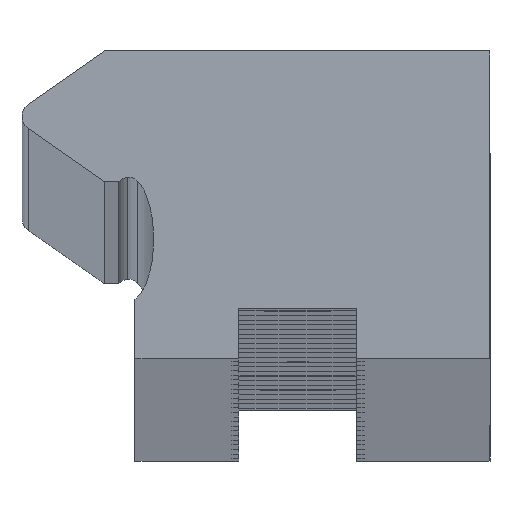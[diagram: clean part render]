
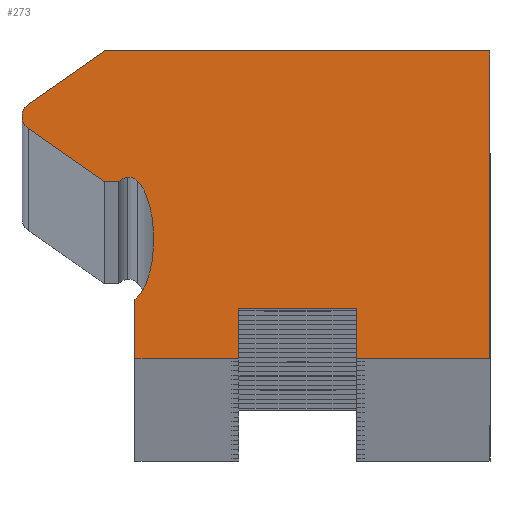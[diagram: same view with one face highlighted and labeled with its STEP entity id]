
A CAD part, top view. The second image highlights one B-rep face of the part: STEP entity #273.
In plain terms, the highlighted planar face has unit normal (0, 0, 1).
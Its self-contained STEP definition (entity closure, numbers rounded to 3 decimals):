
#273=ADVANCED_FACE('',(#715),#716,.F.);
#715=FACE_OUTER_BOUND('',#1157,.T.);
#716=PLANE('',#1158);
#1157=EDGE_LOOP('',(#2914,#2915,#2916,#2917,#2918,#2919,#2920,#2921,#2922,#2923,#2924,#2925,#2926,#2927,#2928,#2929,#2930,#2931,#2932,#2933,#2934));
#1158=AXIS2_PLACEMENT_3D('',#2935,#2936,#2937);
#2914=ORIENTED_EDGE('',*,*,#3528,.F.);
#2915=ORIENTED_EDGE('',*,*,#3481,.F.);
#2916=ORIENTED_EDGE('',*,*,#3263,.F.);
#2917=ORIENTED_EDGE('',*,*,#3485,.F.);
#2918=ORIENTED_EDGE('',*,*,#3488,.F.);
#2919=ORIENTED_EDGE('',*,*,#3490,.F.);
#2920=ORIENTED_EDGE('',*,*,#2943,.F.);
#2921=ORIENTED_EDGE('',*,*,#3493,.F.);
#2922=ORIENTED_EDGE('',*,*,#3496,.F.);
#2923=ORIENTED_EDGE('',*,*,#3499,.F.);
#2924=ORIENTED_EDGE('',*,*,#3502,.T.);
#2925=ORIENTED_EDGE('',*,*,#3505,.T.);
#2926=ORIENTED_EDGE('',*,*,#3508,.T.);
#2927=ORIENTED_EDGE('',*,*,#3511,.T.);
#2928=ORIENTED_EDGE('',*,*,#3512,.T.);
#2929=ORIENTED_EDGE('',*,*,#2941,.T.);
#2930=ORIENTED_EDGE('',*,*,#3516,.T.);
#2931=ORIENTED_EDGE('',*,*,#3519,.T.);
#2932=ORIENTED_EDGE('',*,*,#3522,.F.);
#2933=ORIENTED_EDGE('',*,*,#3524,.F.);
#2934=ORIENTED_EDGE('',*,*,#3527,.F.);
#2935=CARTESIAN_POINT('',(-0.454,5.325,1976.0));
#2936=DIRECTION('',(0.,0.0,-1.0));
#2937=DIRECTION('',(-1.0,0.0,0.));
#2941=EDGE_CURVE('',#3530,#3534,#3536,.T.);
#2943=EDGE_CURVE('',#3537,#3540,#3541,.T.);
#3263=EDGE_CURVE('',#4152,#4154,#4155,.T.);
#3481=EDGE_CURVE('',#4154,#4439,#4440,.T.);
#3485=EDGE_CURVE('',#4444,#4152,#4446,.T.);
#3488=EDGE_CURVE('',#4449,#4444,#4451,.T.);
#3490=EDGE_CURVE('',#3540,#4449,#4453,.T.);
#3493=EDGE_CURVE('',#4456,#3537,#4458,.T.);
#3496=EDGE_CURVE('',#4461,#4456,#4463,.T.);
#3499=EDGE_CURVE('',#4466,#4461,#4468,.T.);
#3502=EDGE_CURVE('',#4466,#4471,#4473,.T.);
#3505=EDGE_CURVE('',#4471,#4476,#4478,.T.);
#3508=EDGE_CURVE('',#4476,#4481,#4483,.T.);
#3511=EDGE_CURVE('',#4481,#4486,#4488,.T.);
#3512=EDGE_CURVE('',#4486,#3530,#4489,.T.);
#3516=EDGE_CURVE('',#3534,#4493,#4495,.T.);
#3519=EDGE_CURVE('',#4493,#4498,#4500,.T.);
#3522=EDGE_CURVE('',#4503,#4498,#4505,.T.);
#3524=EDGE_CURVE('',#4506,#4503,#4508,.T.);
#3527=EDGE_CURVE('',#4510,#4506,#4512,.T.);
#3528=EDGE_CURVE('',#4439,#4510,#4513,.T.);
#3530=VERTEX_POINT('',#4515);
#3534=VERTEX_POINT('',#4520);
#3536=CIRCLE('',#4523,5.125);
#3537=VERTEX_POINT('',#4524);
#3540=VERTEX_POINT('',#4528);
#3541=CIRCLE('',#4529,0.5);
#4152=VERTEX_POINT('',#5298);
#4154=VERTEX_POINT('',#5301);
#4155=LINE('',#5302,#5303);
#4439=VERTEX_POINT('',#5699);
#4440=LINE('',#5700,#5701);
#4444=VERTEX_POINT('',#5707);
#4446=LINE('',#5710,#5711);
#4449=VERTEX_POINT('',#5715);
#4451=LINE('',#5718,#5719);
#4453=LINE('',#5722,#5723);
#4456=VERTEX_POINT('',#5726);
#4458=CIRCLE('',#5729,0.5);
#4461=VERTEX_POINT('',#5733);
#4463=LINE('',#5736,#5737);
#4466=VERTEX_POINT('',#5741);
#4468=LINE('',#5744,#5745);
#4471=VERTEX_POINT('',#5748);
#4473=CIRCLE('',#5751,0.508);
#4476=VERTEX_POINT('',#5754);
#4478=CIRCLE('',#5757,0.425);
#4481=VERTEX_POINT('',#5760);
#4483=CIRCLE('',#5763,1.165);
#4486=VERTEX_POINT('',#5766);
#4488=CIRCLE('',#5769,3.627);
#4489=CIRCLE('',#5770,5.125);
#4493=VERTEX_POINT('',#5774);
#4495=CIRCLE('',#5777,3.723);
#4498=VERTEX_POINT('',#5780);
#4500=CIRCLE('',#5783,1.2);
#4503=VERTEX_POINT('',#5787);
#4505=LINE('',#5790,#5791);
#4506=VERTEX_POINT('',#5792);
#4508=LINE('',#5795,#5796);
#4510=VERTEX_POINT('',#5799);
#4512=LINE('',#5802,#5803);
#4513=LINE('',#5804,#5805);
#4515=CARTESIAN_POINT('',(-4.87,4.05,1976.0));
#4520=CARTESIAN_POINT('',(-4.879,3.747,1976.0));
#4523=AXIS2_PLACEMENT_3D('',#5811,#5812,#5813);
#4524=CARTESIAN_POINT('',(-9.318,8.2,1976.0));
#4528=CARTESIAN_POINT('',(-9.105,8.61,1976.0));
#4529=AXIS2_PLACEMENT_3D('',#5815,#5816,#5817);
#5298=CARTESIAN_POINT('',(6.5,0.0,1976.0));
#5301=CARTESIAN_POINT('',(2.,0.0,1976.0));
#5302=CARTESIAN_POINT('',(6.5,0.0,1976.0));
#5303=VECTOR('',#6457,1.0);
#5699=CARTESIAN_POINT('',(2.,1.7,1976.0));
#5700=CARTESIAN_POINT('',(2.,0.0,1976.0));
#5701=VECTOR('',#6885,1.0);
#5707=CARTESIAN_POINT('',(6.5,10.41,1976.0));
#5710=CARTESIAN_POINT('',(6.5,10.41,1976.0));
#5711=VECTOR('',#6889,1.0);
#5715=CARTESIAN_POINT('',(-6.534,10.41,1976.0));
#5718=CARTESIAN_POINT('',(-6.534,10.41,1976.0));
#5719=VECTOR('',#6892,1.0);
#5722=CARTESIAN_POINT('',(-9.105,8.61,1976.0));
#5723=VECTOR('',#6894,1.0);
#5726=CARTESIAN_POINT('',(-9.105,7.79,1976.0));
#5729=AXIS2_PLACEMENT_3D('',#6899,#6900,#6901);
#5733=CARTESIAN_POINT('',(-6.534,5.99,1976.0));
#5736=CARTESIAN_POINT('',(-6.534,5.99,1976.0));
#5737=VECTOR('',#6904,1.0);
#5741=CARTESIAN_POINT('',(-6.045,5.99,1976.0));
#5744=CARTESIAN_POINT('',(-6.045,5.99,1976.0));
#5745=VECTOR('',#6907,1.0);
#5748=CARTESIAN_POINT('',(-5.763,6.147,1976.0));
#5751=AXIS2_PLACEMENT_3D('',#6912,#6913,#6914);
#5754=CARTESIAN_POINT('',(-5.41,6.006,1976.0));
#5757=AXIS2_PLACEMENT_3D('',#6919,#6920,#6921);
#5760=CARTESIAN_POINT('',(-5.118,5.534,1976.0));
#5763=AXIS2_PLACEMENT_3D('',#6926,#6927,#6928);
#5766=CARTESIAN_POINT('',(-4.887,4.463,1976.0));
#5769=AXIS2_PLACEMENT_3D('',#6933,#6934,#6935);
#5770=AXIS2_PLACEMENT_3D('',#6936,#6937,#6938);
#5774=CARTESIAN_POINT('',(-5.123,2.554,1976.0));
#5777=AXIS2_PLACEMENT_3D('',#6946,#6947,#6948);
#5780=CARTESIAN_POINT('',(-5.5,2.022,1976.0));
#5783=AXIS2_PLACEMENT_3D('',#6953,#6954,#6955);
#5787=CARTESIAN_POINT('',(-5.5,0.0,1976.0));
#5790=CARTESIAN_POINT('',(-5.5,0.0,1976.0));
#5791=VECTOR('',#6958,1.0);
#5792=CARTESIAN_POINT('',(-2.,0.0,1976.0));
#5795=CARTESIAN_POINT('',(-2.,0.0,1976.0));
#5796=VECTOR('',#6960,1.0);
#5799=CARTESIAN_POINT('',(-2.,1.7,1976.0));
#5802=CARTESIAN_POINT('',(-2.,1.7,1976.0));
#5803=VECTOR('',#6963,1.0);
#5804=CARTESIAN_POINT('',(2.,1.7,1976.0));
#5805=VECTOR('',#6964,1.0);
#5811=CARTESIAN_POINT('',(-9.995,4.05,1976.0));
#5812=DIRECTION('',(0.,0.0,-1.0));
#5813=DIRECTION('',(-1.0,0.0,0.));
#5815=CARTESIAN_POINT('',(-8.818,8.2,1976.0));
#5816=DIRECTION('',(0.,0.0,-1.0));
#5817=DIRECTION('',(-1.0,0.0,0.));
#6457=DIRECTION('',(-1.0,0.0,0.));
#6885=DIRECTION('',(0.0,1.0,0.0));
#6889=DIRECTION('',(0.0,-1.0,-0.0));
#6892=DIRECTION('',(1.0,0.0,0.));
#6894=DIRECTION('',(0.819,0.574,0.));
#6899=CARTESIAN_POINT('',(-8.818,8.2,1976.0));
#6900=DIRECTION('',(0.,0.0,-1.0));
#6901=DIRECTION('',(-1.0,0.0,0.));
#6904=DIRECTION('',(-0.819,0.574,0.));
#6907=DIRECTION('',(-1.0,0.0,0.));
#6912=CARTESIAN_POINT('',(-5.67,5.648,1976.0));
#6913=DIRECTION('',(0.,0.0,-1.0));
#6914=DIRECTION('',(-1.0,0.0,0.));
#6919=CARTESIAN_POINT('',(-5.729,5.723,1976.0));
#6920=DIRECTION('',(0.,0.0,-1.0));
#6921=DIRECTION('',(-1.0,0.0,0.));
#6926=CARTESIAN_POINT('',(-6.226,5.175,1976.0));
#6927=DIRECTION('',(0.,0.0,-1.0));
#6928=DIRECTION('',(-1.0,0.0,0.));
#6933=CARTESIAN_POINT('',(-8.507,4.239,1976.0));
#6934=DIRECTION('',(0.,0.0,-1.0));
#6935=DIRECTION('',(-1.0,0.0,0.));
#6936=CARTESIAN_POINT('',(-9.995,4.05,1976.0));
#6937=DIRECTION('',(0.,0.0,-1.0));
#6938=DIRECTION('',(-1.0,0.0,0.));
#6946=CARTESIAN_POINT('',(-8.599,3.888,1976.0));
#6947=DIRECTION('',(0.,0.0,-1.0));
#6948=DIRECTION('',(-1.0,0.0,0.));
#6953=CARTESIAN_POINT('',(-6.254,2.954,1976.0));
#6954=DIRECTION('',(0.,0.0,-1.0));
#6955=DIRECTION('',(-1.0,0.0,0.));
#6958=DIRECTION('',(0.0,1.0,0.0));
#6960=DIRECTION('',(-1.0,0.0,0.));
#6963=DIRECTION('',(0.0,-1.0,-0.0));
#6964=DIRECTION('',(-1.0,0.0,0.));
